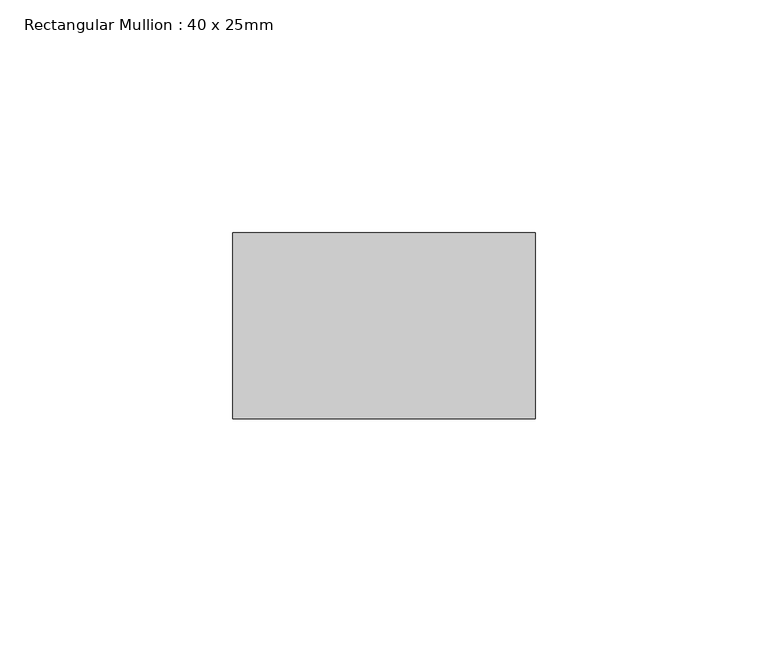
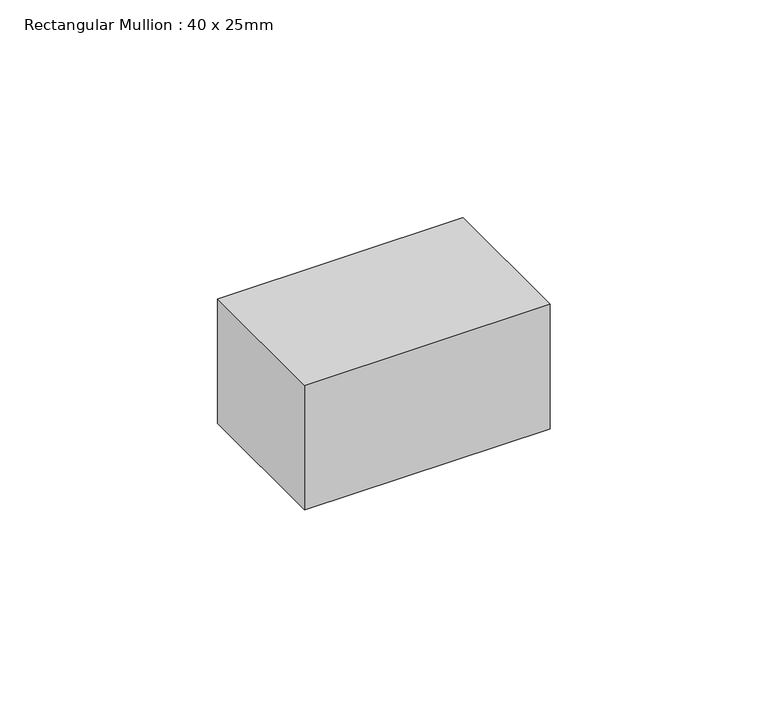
"""IFC4 building model written with IfcOpenShell, lengths in millimetres: member geometry, Rectangular Mullion : 40 x 25mm."""

from ifc_helpers import new_model, si_unit, frame, origin, place, context, project, spatial, polyline, outline, extrude, source, transform, mapped, element, save


def rectangular_mullion_40_x_25mm_4705c114(model_context):
    return source(origin(), model_context, "Body", "SweptSolid", [
        extrude(outline(polyline([(0.0, -20.0), (0.0, -60.0), (-65.0, -60.0), (-65.0, -20.0), (0.0, -20.0)])), frame((0.0, 0.0, -35.0), z_axis=(0.0, 0.0, 1.0), x_axis=(1.0, 0.0, 0.0)), (0.0, 0.0, 1.0), 35.0),
    ])


if __name__ == "__main__":
    model = new_model("IFC4")
    model_context = context("Model", 3, world=origin())
    ifc_project = project(units=[si_unit("LENGTHUNIT", "METRE", prefix="MILLI")], contexts=[model_context])
    site = spatial("IfcSite", under=ifc_project)
    building = spatial("IfcBuilding", under=site)
    placement = place(None, origin())
    rectangular_mullion_40_x_25mm_shape = rectangular_mullion_40_x_25mm_4705c114(model_context)
    element("IfcMember", 1, ObjectType="Rectangular Mullion : 40 x 25mm", at=placement, inside=building, context=model_context, shape_type="MappedRepresentation", body=[
        mapped(rectangular_mullion_40_x_25mm_shape, transform((0.0, 0.0, 0.0), x_axis=(1.0, 0.0, 0.0), y_axis=(0.0, 1.0, 0.0), z_axis=(0.0, 0.0, 1.0))),
    ])
    save(model, "model.ifc")
